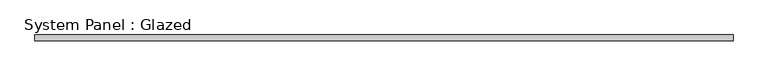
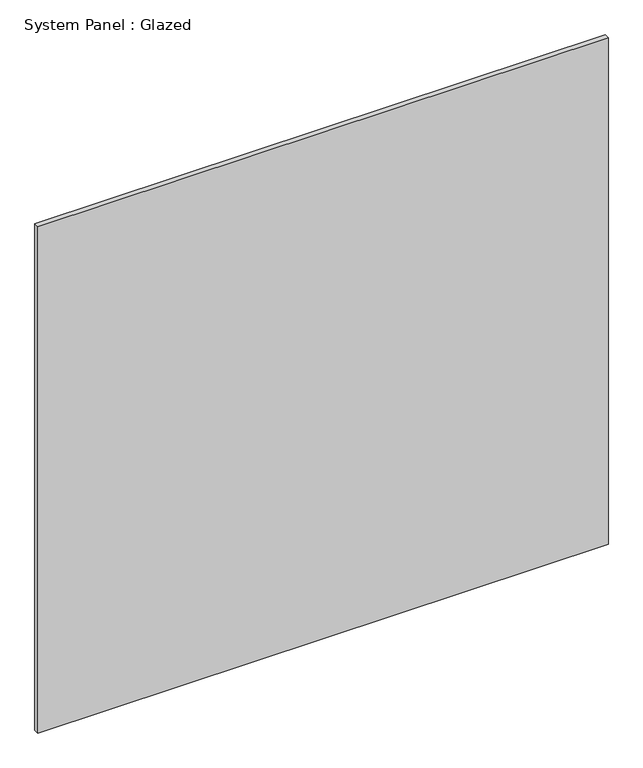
"""IFC4 building model written with IfcOpenShell, lengths in millimetres: plate geometry, System Panel : Glazed."""

from ifc_helpers import new_model, si_unit, origin, origin_with_axes, place, context, project, spatial, polyline, outline, extrude, source, transform, mapped, element, save


def system_panel_glazed_ddb5812e(model_context):
    return source(origin(), model_context, "Body", "SweptSolid", [
        extrude(outline(polyline([(1466.25, -49.5), (-1466.25, -49.5), (-1466.25, -24.5), (1466.25, -24.5), (1466.25, -49.5)])), origin_with_axes(), (0.0, 0.0, 1.0), 2750.0),
    ])


if __name__ == "__main__":
    model = new_model("IFC4")
    model_context = context("Model", 3, world=origin())
    ifc_project = project(units=[si_unit("LENGTHUNIT", "METRE", prefix="MILLI")], contexts=[model_context])
    site = spatial("IfcSite", under=ifc_project)
    building = spatial("IfcBuilding", under=site)
    placement = place(None, origin())
    system_panel_glazed_shape = system_panel_glazed_ddb5812e(model_context)
    element("IfcPlate", 1, ObjectType="System Panel : Glazed", at=placement, inside=building, context=model_context, shape_type="MappedRepresentation", body=[
        mapped(system_panel_glazed_shape, transform((0.0, 0.0, 0.0), x_axis=(1.0, 0.0, 0.0), y_axis=(0.0, 1.0, 0.0), z_axis=(0.0, 0.0, 1.0))),
    ])
    save(model, "model.ifc")
